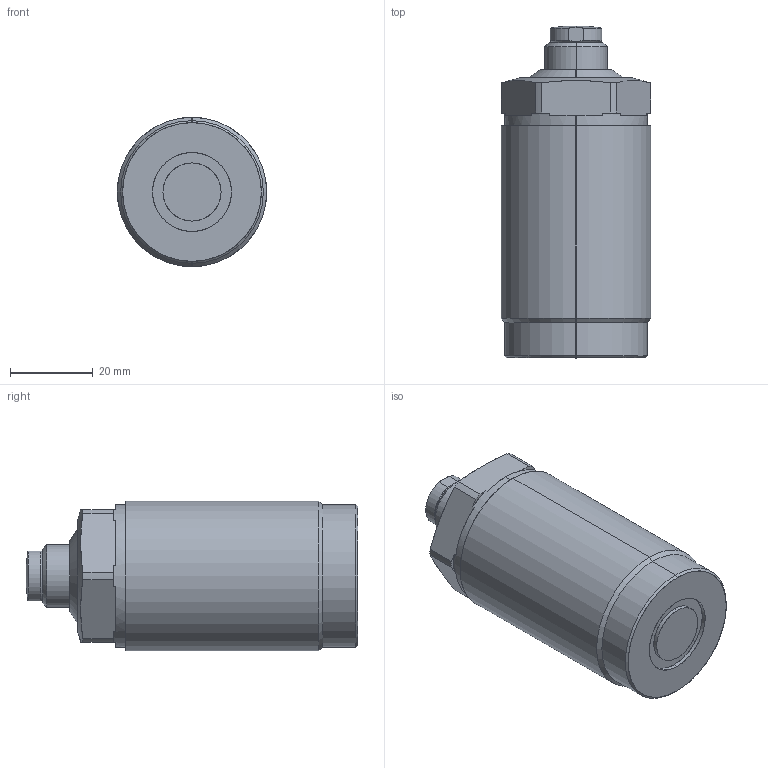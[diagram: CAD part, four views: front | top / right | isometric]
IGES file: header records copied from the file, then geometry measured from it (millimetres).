
Start section: SolidWorks IGES file using analytic representation for surfaces
Global section: file name: D:\karuppas\Clasp\3D model\Work support\Work support TW09-M362\TW09-M362 Work support.SLDPRT.IGS; native system: SolidWorks 2017; preprocessor: SolidWorks 2017; author: pc; date: 220709.224538; units: millimetre
Bounding box: 36 x 80 x 36 mm (x, y, z)
Surface area: 13197.5 mm2 (no closed solid volume)
Topology: 0 solids, 0 shells, 265 faces, 3227 edges, 3223 vertices
Faces by surface type: bspline 210, revolution 55
